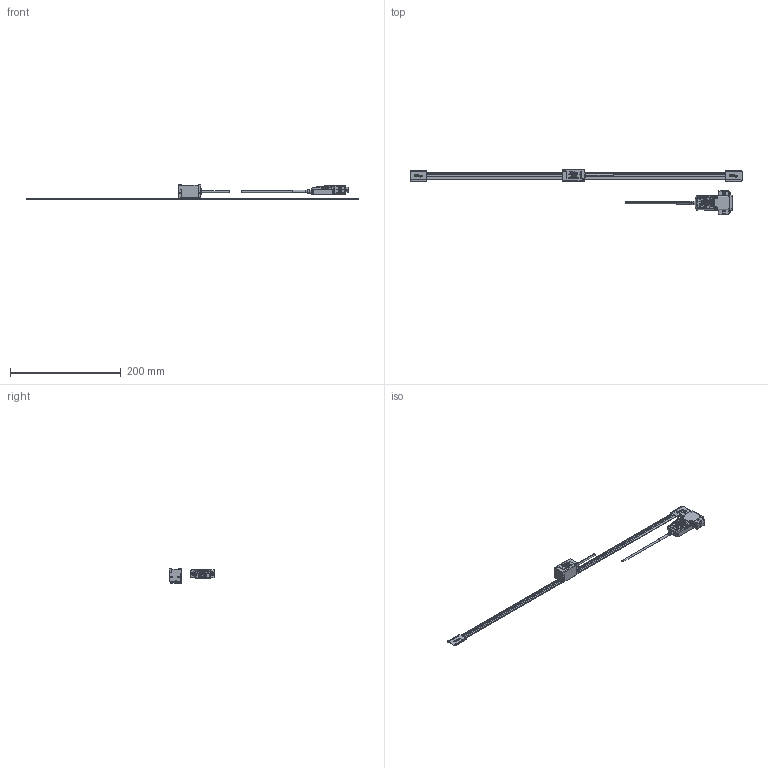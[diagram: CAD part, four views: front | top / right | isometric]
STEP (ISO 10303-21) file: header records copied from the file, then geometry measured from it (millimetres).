
FILE_DESCRIPTION(('Creo Elements/Direct Modeling STEP Export'),'2;1');
FILE_NAME('ST1300-500E.stp','2018-02-27T10:33:51',(''),(''),'Creo Elements/Direct Modeling STEP processor for AP214 (Solid Model)','Creo Elements/Direct Modeling 18.1B 29-Sep-2012 (C) Parametric Technology GmbH','');
FILE_SCHEMA(('AUTOMOTIVE_DESIGN { 1 0 10303 214 1 1 1 1 }'));
Products named in the file (4): Connector; DetectorHead; Scale_500; ST1300-500E
Assembly tree (3 placements, depth 2):
  ST1300-500E
    Scale_500
    DetectorHead
    Connector
Bounding box: 600 x 83 x 25.45 mm (x, y, z)
Volume: 24226 mm3; surface area: 33891.2 mm2
Topology: 2 solids, 6 shells, 3203 faces, 8994 edges, 5961 vertices
Faces by surface type: plane 1571, cylinder 1460, cone 83, extrusion 36, torus 26, bspline 23, revolution 4
Entity records: 108676 total; most frequent: CARTESIAN_POINT 24043, ORIENTED_EDGE 17972, DIRECTION 17522, EDGE_CURVE 8982, AXIS2_PLACEMENT_3D 5964, VERTEX_POINT 5961, VECTOR 5588, LINE 5572
